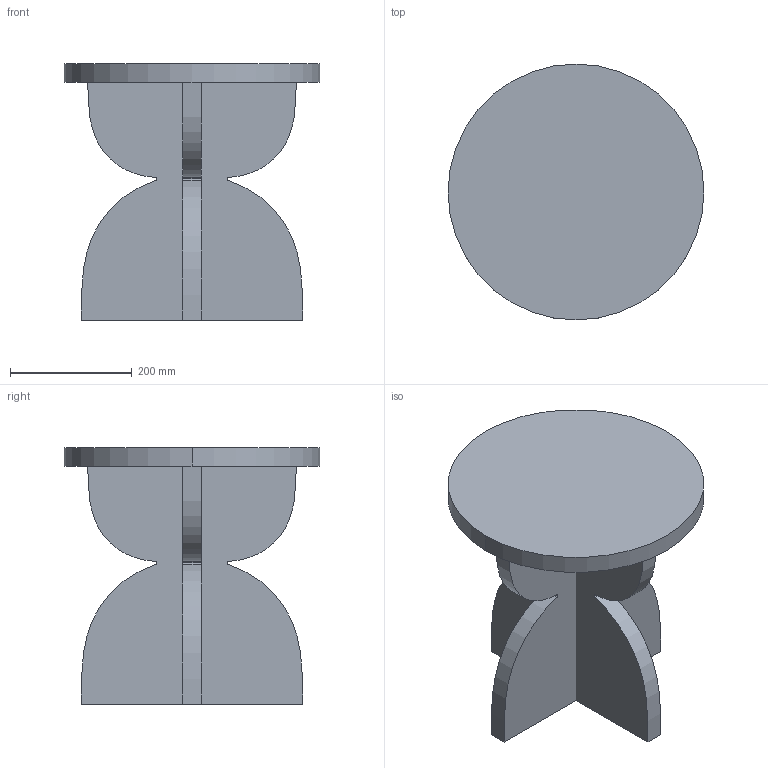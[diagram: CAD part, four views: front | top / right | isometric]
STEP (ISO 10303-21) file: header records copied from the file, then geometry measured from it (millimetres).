
FILE_DESCRIPTION (( 'STEP AP214' ), '1' );
FILE_NAME ('CHESS Table - 42 Small.STEP', '2025-03-25T10:30:27', ( '' ), ( '' ), 'SwSTEP 2.0', 'SolidWorks 2020', '' );
FILE_SCHEMA (( 'AUTOMOTIVE_DESIGN' ));
Length unit declared in the file: millimetre
Products named in the file (4): SW-chess_low base_42 base under; SW-chess_top_42; SW-chess_low base_42 base ovan; CHESS Table - 42 Small
Assembly tree (3 placements, depth 2):
  CHESS Table - 42 Small
    SW-chess_top_42
    SW-chess_low base_42 base ovan
    SW-chess_low base_42 base under
Bounding box: 420 x 420 x 421 mm (x, y, z)
Volume: 11378059.6 mm3; surface area: 901441.5 mm2
Topology: 3 solids, 3 shells, 26 faces, 60 edges, 40 vertices
Faces by surface type: plane 10, cylinder 8, bspline 8
Entity records: 990 total; most frequent: CARTESIAN_POINT 284, ORIENTED_EDGE 120, DIRECTION 108, EDGE_CURVE 60, AXIS2_PLACEMENT_3D 40, VERTEX_POINT 40, LINE 28, VECTOR 28
